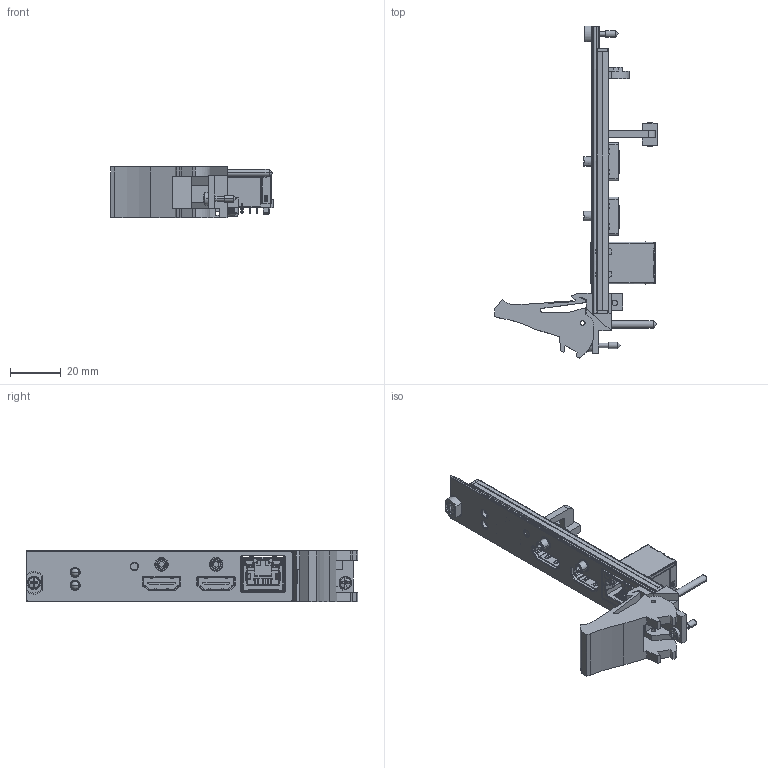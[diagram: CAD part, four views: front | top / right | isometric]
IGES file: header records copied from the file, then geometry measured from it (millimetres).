
Start section:  PTC IGES file: cu_mod_pxie-1491.igs
Global section: file name: cu_mod_pxie-1491.igs; native system: Creo Parametric by Parametric Technology Corporation; preprocessor: 2014000; author: hugyokog; organization: Unknown; date: 20140612.142131; units: inch
Bounding box: 63.89 x 130.5 x 20.31 mm (x, y, z)
Surface area: 24429 mm2 (no closed solid volume)
Topology: 0 solids, 0 shells, 2331 faces, 13774 edges, 13760 vertices
Faces by surface type: bspline 1536, revolution 795
